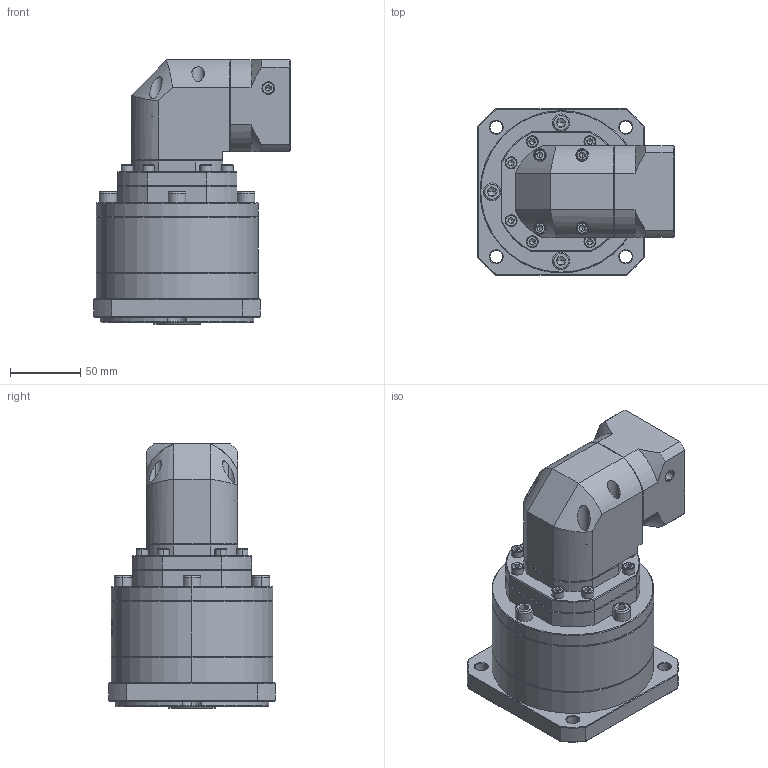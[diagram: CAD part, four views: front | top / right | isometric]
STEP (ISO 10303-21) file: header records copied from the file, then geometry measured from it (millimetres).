
FILE_DESCRIPTION (( 'STEP AP214' ), '1' );
FILE_NAME ('ZFR120A-K25-L3-P2-14-60-75-M5.step', '2023-08-27T09:51:30', ( '' ), ( '' ), 'SwSTEP 2.0', 'SolidWorks 2016', '' );
FILE_SCHEMA (( 'AUTOMOTIVE_DESIGN' ));
Length unit declared in the file: millimetre
Products named in the file (1): ZFR120A-K25-L3-P2-14-60-75-M5
Bounding box: 139.2 x 118 x 187.5 mm (x, y, z)
Volume: 1437457.8 mm3; surface area: 138694.6 mm2
Topology: 6 solids, 6 shells, 2379 faces, 6343 edges, 4080 vertices
Faces by surface type: plane 1165, cylinder 429, bspline 426, cone 339, torus 20
Entity records: 124019 total; most frequent: CARTESIAN_POINT 43700, ORIENTED_EDGE 12582, DIRECTION 9484, EDGE_CURVE 6291, VERTEX_POINT 4080, VECTOR 3366, LINE 3366, AXIS2_PLACEMENT_3D 3059
